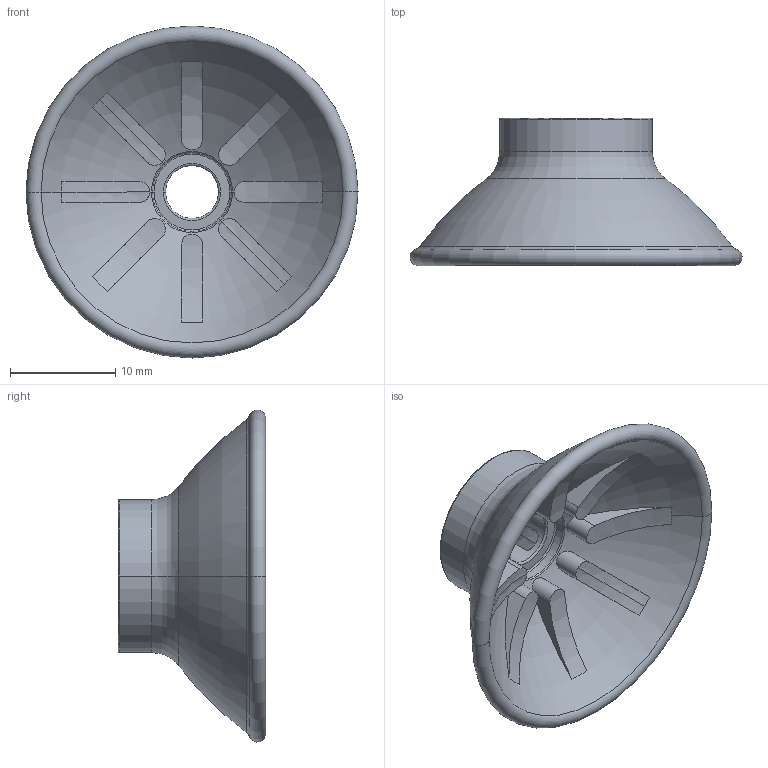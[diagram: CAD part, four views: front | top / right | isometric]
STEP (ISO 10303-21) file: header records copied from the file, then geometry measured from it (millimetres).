
FILE_DESCRIPTION (( 'STEP AP203' ), '1' );
FILE_NAME ('99A_30PU_A.STEP', '2018-05-24T11:40:00', ( '' ), ( '' ), 'SwSTEP 2.0', 'SolidWorks 2016', '' );
FILE_SCHEMA (( 'CONFIG_CONTROL_DESIGN' ));
Length unit declared in the file: millimetre
Products named in the file (1): 99A_30PU_A
Bounding box: 31.5 x 14 x 31.5 mm (x, y, z)
Volume: 2421.1 mm3; surface area: 2508.6 mm2
Topology: 1 solids, 1 shells, 69 faces, 155 edges, 95 vertices
Faces by surface type: torus 31, cylinder 19, plane 19
Entity records: 2444 total; most frequent: CARTESIAN_POINT 877, ORIENTED_EDGE 310, DIRECTION 309, EDGE_CURVE 155, AXIS2_PLACEMENT_3D 141, VERTEX_POINT 95, EDGE_LOOP 78, CIRCLE 71
